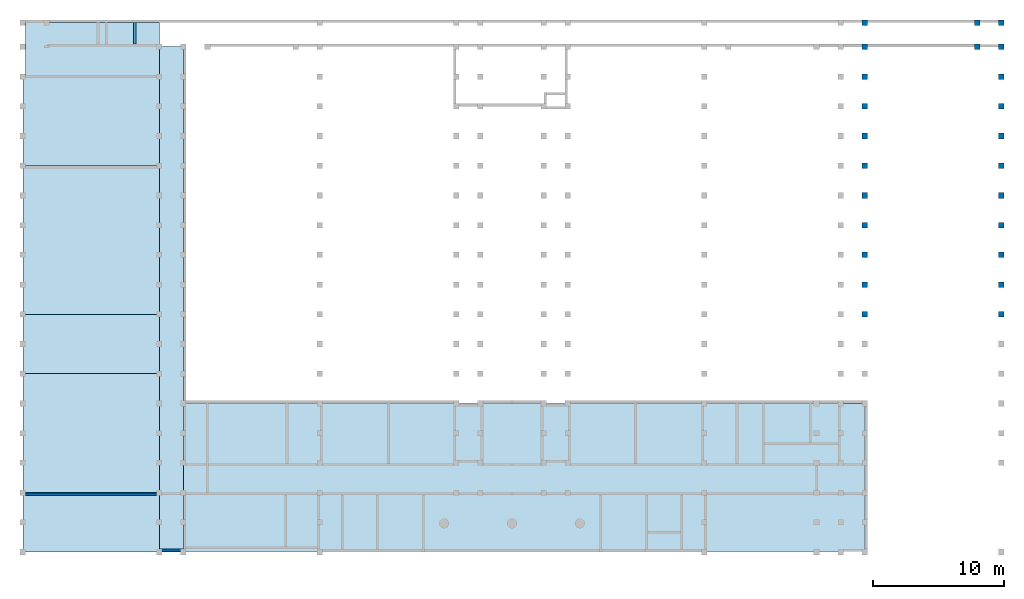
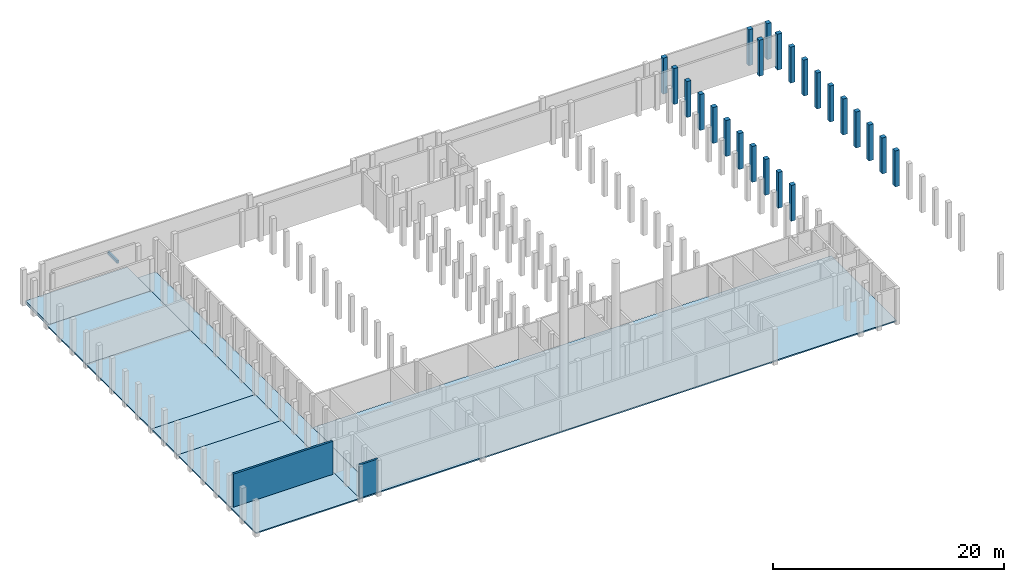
# One storey, part 7 of 9: 24 columns, 8 slabs, 2 walls, 1 beam.
"""IFC2X3 building model written with IfcOpenShell, lengths in millimetres."""

from ifc_helpers import new_model, entity, si_unit, converted_unit, derived_unit, direction, frame, frame_2d, origin, origin_2d_with_axis, place, context, subcontext, project, spatial, rectangle, extrude, source, transform, mapped, material, layer, layer_set, layer_usage, type_object, type_shapes, element, save


model = new_model("IFC2X3")

# Units and contexts
model_context = context("Model", 3, precision=0.01, world=origin(), true_north=direction((6.12303176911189e-17, 1.0)))
body_context = subcontext(model_context, "Body", "Model", "MODEL_VIEW")
ifc_project = project(units=[si_unit("LENGTHUNIT", "METRE", prefix="MILLI"), si_unit("AREAUNIT", "SQUARE_METRE"), si_unit("VOLUMEUNIT", "CUBIC_METRE"), converted_unit("PLANEANGLEUNIT", "DEGREE", entity("IfcRatioMeasure", 0.0174532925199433), si_unit("PLANEANGLEUNIT", "RADIAN"), dimensions=[0, 0, 0, 0, 0, 0, 0]), si_unit("MASSUNIT", "GRAM", prefix="KILO"), derived_unit("MASSDENSITYUNIT", [(si_unit("MASSUNIT", "GRAM", prefix="KILO"), 1), (si_unit("LENGTHUNIT", "METRE"), -3)]), derived_unit("MOMENTOFINERTIAUNIT", [(si_unit("LENGTHUNIT", "METRE"), 4)]), si_unit("TIMEUNIT", "SECOND"), si_unit("FREQUENCYUNIT", "HERTZ"), si_unit("THERMODYNAMICTEMPERATUREUNIT", "DEGREE_CELSIUS"), derived_unit("THERMALTRANSMITTANCEUNIT", [(si_unit("MASSUNIT", "GRAM", prefix="KILO"), 1), (si_unit("THERMODYNAMICTEMPERATUREUNIT", "KELVIN"), -1), (si_unit("TIMEUNIT", "SECOND"), -3)]), derived_unit("VOLUMETRICFLOWRATEUNIT", [(si_unit("LENGTHUNIT", "METRE"), 3), (si_unit("TIMEUNIT", "SECOND"), -1)]), si_unit("ELECTRICCURRENTUNIT", "AMPERE"), si_unit("ELECTRICVOLTAGEUNIT", "VOLT"), si_unit("POWERUNIT", "WATT"), si_unit("FORCEUNIT", "NEWTON", prefix="KILO"), si_unit("ILLUMINANCEUNIT", "LUX"), si_unit("LUMINOUSFLUXUNIT", "LUMEN"), si_unit("LUMINOUSINTENSITYUNIT", "CANDELA"), derived_unit("USERDEFINED", [(si_unit("MASSUNIT", "GRAM", prefix="KILO"), -1), (si_unit("LENGTHUNIT", "METRE"), -2), (si_unit("TIMEUNIT", "SECOND"), 3), (si_unit("LUMINOUSFLUXUNIT", "LUMEN"), 1)]), derived_unit("LINEARVELOCITYUNIT", [(si_unit("LENGTHUNIT", "METRE"), 1), (si_unit("TIMEUNIT", "SECOND"), -1)]), si_unit("PRESSUREUNIT", "PASCAL"), derived_unit("USERDEFINED", [(si_unit("LENGTHUNIT", "METRE"), -2), (si_unit("MASSUNIT", "GRAM", prefix="KILO"), 1), (si_unit("TIMEUNIT", "SECOND"), -2)]), derived_unit("LINEARFORCEUNIT", [(si_unit("MASSUNIT", "GRAM", prefix="KILO"), 1), (si_unit("LENGTHUNIT", "METRE"), 1), (si_unit("TIMEUNIT", "SECOND"), -2), (si_unit("LENGTHUNIT", "METRE"), -1)]), derived_unit("PLANARFORCEUNIT", [(si_unit("MASSUNIT", "GRAM", prefix="KILO"), 1), (si_unit("LENGTHUNIT", "METRE"), 1), (si_unit("TIMEUNIT", "SECOND"), -2), (si_unit("LENGTHUNIT", "METRE"), -2)])], contexts=[model_context])

# Site, building, storey
site_placement = place(None, frame((10627.5135316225, 21939.0796949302, 0.0)))
site = spatial("IfcSite", under=ifc_project, at=site_placement, Name="Default", CompositionType="ELEMENT")
building_placement = place(site_placement, origin())
building = spatial("IfcBuilding", under=site, at=building_placement, CompositionType="ELEMENT")
storey_placement = place(building_placement, frame((0.0, 0.0, -3500.0)))
storey = spatial("IfcBuildingStorey", under=building, at=storey_placement, Name="R-1", CompositionType="ELEMENT", Elevation=-3500.0)

# Columns
ifc_material_1 = material(Name="Concrete, Precast Smooth, Light Grey")
column_type_1 = type_object("IfcColumnType", Name="M_Precast-Square Column:430x430", PredefinedType="COLUMN", material=ifc_material_1)
shared_shape_1 = source(origin(), body_context, "Body", "SweptSolid", [
    extrude(rectangle(XDim=430.0, YDim=430.000000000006, at=frame_2d((-1.08002495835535e-12, -8.66862137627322e-12), x_axis=(1.0, 0.0))), frame((63782.4864683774, 18310.9203050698, -3800.0), z_axis=(0.0, 0.0, 1.0), x_axis=(0.0, -1.0, 0.0)), (0.0, 0.0, 1.0), 3800.0),
])
type_shapes(column_type_1, [shared_shape_1])
column_1_placement = place(storey_placement, frame((0.0, 0.0, 3500.0)))
element("IfcColumn", 1, at=column_1_placement, inside=storey, type_object=column_type_1, material=ifc_material_1, Name="M_Precast-Square Column:430x430", ObjectType="M_Precast-Square Column:430x430", context=body_context, shape_type="MappedRepresentation", body=[
    mapped(shared_shape_1, transform((0.0, 0.0, 0.0), scale=1.0)),
])
column_type_2 = type_object("IfcColumnType", Name="M_Precast-Square Column:430x430", PredefinedType="COLUMN", material=ifc_material_1)
shared_shape_2 = source(origin(), body_context, "Body", "SweptSolid", [
    extrude(rectangle(XDim=430.0, YDim=430.000000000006, at=frame_2d((-1.08002495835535e-12, 0.0), x_axis=(1.0, 0.0))), frame((61952.4864683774, 18310.9203050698, -3800.0), z_axis=(0.0, 0.0, 1.0), x_axis=(0.0, -1.0, 0.0)), (0.0, 0.0, 1.0), 3800.0),
])
type_shapes(column_type_2, [shared_shape_2])
column_2_placement = place(storey_placement, frame((0.0, 0.0, 3500.0)))
element("IfcColumn", 2, at=column_2_placement, inside=storey, type_object=column_type_2, material=ifc_material_1, Name="M_Precast-Square Column:430x430", ObjectType="M_Precast-Square Column:430x430", context=body_context, shape_type="MappedRepresentation", body=[
    mapped(shared_shape_2, transform((0.0, 0.0, 0.0), scale=1.0)),
])
column_type_3 = type_object("IfcColumnType", Name="M_Precast-Square Column:430x430", PredefinedType="COLUMN", material=ifc_material_1)
shared_shape_3 = source(origin(), body_context, "Body", "SweptSolid", [
    extrude(rectangle(XDim=430.0, YDim=430.000000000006, at=frame_2d((-1.08002495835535e-12, -8.66862137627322e-12), x_axis=(1.0, 0.0))), frame((61952.4864683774, 16480.9203050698, -3800.0), z_axis=(0.0, 0.0, 1.0), x_axis=(0.0, -1.0, 0.0)), (0.0, 0.0, 1.0), 3800.0),
])
type_shapes(column_type_3, [shared_shape_3])
column_3_placement = place(storey_placement, frame((0.0, 0.0, 3500.0)))
element("IfcColumn", 3, at=column_3_placement, inside=storey, type_object=column_type_3, material=ifc_material_1, Name="M_Precast-Square Column:430x430", ObjectType="M_Precast-Square Column:430x430", context=body_context, shape_type="MappedRepresentation", body=[
    mapped(shared_shape_3, transform((0.0, 0.0, 0.0), scale=1.0)),
])
column_type_4 = type_object("IfcColumnType", Name="M_Precast-Square Column:430x430", PredefinedType="COLUMN", material=ifc_material_1)
shared_shape_4 = source(origin(), body_context, "Body", "SweptSolid", [
    extrude(rectangle(XDim=430.0, YDim=430.000000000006, at=frame_2d((-1.08002495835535e-12, -8.66862137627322e-12), x_axis=(1.0, 0.0))), frame((63782.4864683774, 16480.9203050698, -3800.0), z_axis=(0.0, 0.0, 1.0), x_axis=(0.0, -1.0, 0.0)), (0.0, 0.0, 1.0), 3800.0),
])
type_shapes(column_type_4, [shared_shape_4])
column_4_placement = place(storey_placement, frame((0.0, 0.0, 3500.0)))
element("IfcColumn", 4, at=column_4_placement, inside=storey, type_object=column_type_4, material=ifc_material_1, Name="M_Precast-Square Column:430x430", ObjectType="M_Precast-Square Column:430x430", context=body_context, shape_type="MappedRepresentation", body=[
    mapped(shared_shape_4, transform((0.0, 0.0, 0.0), scale=1.0)),
])
column_type_5 = type_object("IfcColumnType", Name="M_Precast-Square Column:430x430", PredefinedType="COLUMN", material=ifc_material_1)
shared_shape_5 = source(origin(), body_context, "Body", "SweptSolid", [
    extrude(rectangle(XDim=430.0, YDim=430.000000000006, at=frame_2d((-1.08002495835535e-12, 0.0), x_axis=(1.0, 0.0))), frame((63782.4864683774, 14220.9203050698, -3800.0), z_axis=(0.0, 0.0, 1.0), x_axis=(0.0, -1.0, 0.0)), (0.0, 0.0, 1.0), 3800.0),
])
type_shapes(column_type_5, [shared_shape_5])
column_5_placement = place(storey_placement, frame((0.0, 0.0, 3500.0)))
element("IfcColumn", 5, at=column_5_placement, inside=storey, type_object=column_type_5, material=ifc_material_1, Name="M_Precast-Square Column:430x430", ObjectType="M_Precast-Square Column:430x430", context=body_context, shape_type="MappedRepresentation", body=[
    mapped(shared_shape_5, transform((0.0, 0.0, 0.0), scale=1.0)),
])
column_type_6 = type_object("IfcColumnType", Name="M_Precast-Square Column:430x430", PredefinedType="COLUMN", material=ifc_material_1)
shared_shape_6 = source(origin(), body_context, "Body", "SweptSolid", [
    extrude(rectangle(XDim=430.0, YDim=430.000000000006, at=frame_2d((-1.08002495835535e-12, -8.66862137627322e-12), x_axis=(1.0, 0.0))), frame((63782.4864683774, 11960.9203050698, -3800.0), z_axis=(0.0, 0.0, 1.0), x_axis=(0.0, -1.0, 0.0)), (0.0, 0.0, 1.0), 3800.0),
])
type_shapes(column_type_6, [shared_shape_6])
column_6_placement = place(storey_placement, frame((0.0, 0.0, 3500.0)))
element("IfcColumn", 6, at=column_6_placement, inside=storey, type_object=column_type_6, material=ifc_material_1, Name="M_Precast-Square Column:430x430", ObjectType="M_Precast-Square Column:430x430", context=body_context, shape_type="MappedRepresentation", body=[
    mapped(shared_shape_6, transform((0.0, 0.0, 0.0), scale=1.0)),
])
column_type_7 = type_object("IfcColumnType", Name="M_Precast-Square Column:430x430", PredefinedType="COLUMN", material=ifc_material_1)
shared_shape_7 = source(origin(), body_context, "Body", "SweptSolid", [
    extrude(rectangle(XDim=430.0, YDim=430.000000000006, at=frame_2d((1.08002495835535e-12, 0.0), x_axis=(1.0, 0.0))), frame((53402.4864683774, 16480.9203050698, -3800.0), z_axis=(0.0, 0.0, 1.0), x_axis=(0.0, -1.0, 0.0)), (0.0, 0.0, 1.0), 3800.0),
])
type_shapes(column_type_7, [shared_shape_7])
column_7_placement = place(storey_placement, frame((0.0, 0.0, 3500.0)))
element("IfcColumn", 7, at=column_7_placement, inside=storey, type_object=column_type_7, material=ifc_material_1, Name="M_Precast-Square Column:430x430", ObjectType="M_Precast-Square Column:430x430", context=body_context, shape_type="MappedRepresentation", body=[
    mapped(shared_shape_7, transform((0.0, 0.0, 0.0), scale=1.0)),
])
column_type_8 = type_object("IfcColumnType", Name="M_Precast-Square Column:430x430", PredefinedType="COLUMN", material=ifc_material_1)
shared_shape_8 = source(origin(), body_context, "Body", "SweptSolid", [
    extrude(rectangle(XDim=430.0, YDim=430.000000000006, at=frame_2d((-1.08002495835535e-12, -8.66862137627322e-12), x_axis=(1.0, 0.0))), frame((53402.4864683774, 14220.9203050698, -3800.0), z_axis=(0.0, 0.0, 1.0), x_axis=(0.0, -1.0, 0.0)), (0.0, 0.0, 1.0), 3800.0),
])
type_shapes(column_type_8, [shared_shape_8])
column_8_placement = place(storey_placement, frame((0.0, 0.0, 3500.0)))
element("IfcColumn", 8, at=column_8_placement, inside=storey, type_object=column_type_8, material=ifc_material_1, Name="M_Precast-Square Column:430x430", ObjectType="M_Precast-Square Column:430x430", context=body_context, shape_type="MappedRepresentation", body=[
    mapped(shared_shape_8, transform((0.0, 0.0, 0.0), scale=1.0)),
])
column_type_9 = type_object("IfcColumnType", Name="M_Precast-Square Column:430x430", PredefinedType="COLUMN", material=ifc_material_1)
shared_shape_9 = source(origin(), body_context, "Body", "SweptSolid", [
    extrude(rectangle(XDim=430.0, YDim=430.000000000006, at=frame_2d((1.08002495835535e-12, 0.0), x_axis=(1.0, 0.0))), frame((53402.4864683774, 18310.9203050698, -3800.0), z_axis=(0.0, 0.0, 1.0), x_axis=(0.0, -1.0, 0.0)), (0.0, 0.0, 1.0), 3800.0),
])
type_shapes(column_type_9, [shared_shape_9])
column_9_placement = place(storey_placement, frame((0.0, 0.0, 3500.0)))
element("IfcColumn", 9, at=column_9_placement, inside=storey, type_object=column_type_9, material=ifc_material_1, Name="M_Precast-Square Column:430x430", ObjectType="M_Precast-Square Column:430x430", context=body_context, shape_type="MappedRepresentation", body=[
    mapped(shared_shape_9, transform((0.0, 0.0, 0.0), scale=1.0)),
])
column_type_10 = type_object("IfcColumnType", Name="M_Precast-Square Column:430x430", PredefinedType="COLUMN", material=ifc_material_1)
shared_shape_10 = source(origin(), body_context, "Body", "SweptSolid", [
    extrude(rectangle(XDim=430.0, YDim=430.000000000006, at=frame_2d((-1.08002495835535e-12, -8.66862137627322e-12), x_axis=(1.0, 0.0))), frame((53402.4864683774, 11960.9203050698, -3800.0), z_axis=(0.0, 0.0, 1.0), x_axis=(0.0, -1.0, 0.0)), (0.0, 0.0, 1.0), 3800.0),
])
type_shapes(column_type_10, [shared_shape_10])
column_10_placement = place(storey_placement, frame((0.0, 0.0, 3500.0)))
element("IfcColumn", 10, at=column_10_placement, inside=storey, type_object=column_type_10, material=ifc_material_1, Name="M_Precast-Square Column:430x430", ObjectType="M_Precast-Square Column:430x430", context=body_context, shape_type="MappedRepresentation", body=[
    mapped(shared_shape_10, transform((0.0, 0.0, 0.0), scale=1.0)),
])
column_type_11 = type_object("IfcColumnType", Name="M_Precast-Square Column:430x430", PredefinedType="COLUMN", material=ifc_material_1)
shared_shape_11 = source(origin(), body_context, "Body", "SweptSolid", [
    extrude(rectangle(XDim=430.0, YDim=430.000000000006, at=frame_2d((0.0, -8.66862137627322e-12), x_axis=(1.0, 0.0))), frame((53402.4864683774, 9700.92030506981, -3800.0), z_axis=(0.0, 0.0, 1.0), x_axis=(0.0, -1.0, 0.0)), (0.0, 0.0, 1.0), 3800.0),
])
type_shapes(column_type_11, [shared_shape_11])
column_11_placement = place(storey_placement, frame((0.0, 0.0, 3500.0)))
element("IfcColumn", 11, at=column_11_placement, inside=storey, type_object=column_type_11, material=ifc_material_1, Name="M_Precast-Square Column:430x430", ObjectType="M_Precast-Square Column:430x430", context=body_context, shape_type="MappedRepresentation", body=[
    mapped(shared_shape_11, transform((0.0, 0.0, 0.0), scale=1.0)),
])
column_type_12 = type_object("IfcColumnType", Name="M_Precast-Square Column:430x430", PredefinedType="COLUMN", material=ifc_material_1)
shared_shape_12 = source(origin(), body_context, "Body", "SweptSolid", [
    extrude(rectangle(XDim=430.000000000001, YDim=430.000000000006, at=frame_2d((5.40012479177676e-13, -8.66862137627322e-12), x_axis=(1.0, 0.0))), frame((63782.4864683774, 9700.92030506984, -3800.0), z_axis=(0.0, 0.0, 1.0), x_axis=(0.0, -1.0, 0.0)), (0.0, 0.0, 1.0), 3800.0),
])
type_shapes(column_type_12, [shared_shape_12])
column_12_placement = place(storey_placement, frame((0.0, 0.0, 3500.0)))
element("IfcColumn", 12, at=column_12_placement, inside=storey, type_object=column_type_12, material=ifc_material_1, Name="M_Precast-Square Column:430x430", ObjectType="M_Precast-Square Column:430x430", context=body_context, shape_type="MappedRepresentation", body=[
    mapped(shared_shape_12, transform((0.0, 0.0, 0.0), scale=1.0)),
])
column_type_13 = type_object("IfcColumnType", Name="M_Precast-Square Column:430x430", PredefinedType="COLUMN", material=ifc_material_1)
shared_shape_13 = source(origin(), body_context, "Body", "SweptSolid", [
    extrude(rectangle(XDim=430.0, YDim=430.000000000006, at=origin_2d_with_axis()), frame((53402.4864683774, 7440.92030506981, -3800.0), z_axis=(0.0, 0.0, 1.0), x_axis=(0.0, -1.0, 0.0)), (0.0, 0.0, 1.0), 3800.0),
])
type_shapes(column_type_13, [shared_shape_13])
column_13_placement = place(storey_placement, frame((0.0, 0.0, 3500.0)))
element("IfcColumn", 13, at=column_13_placement, inside=storey, type_object=column_type_13, material=ifc_material_1, Name="M_Precast-Square Column:430x430", ObjectType="M_Precast-Square Column:430x430", context=body_context, shape_type="MappedRepresentation", body=[
    mapped(shared_shape_13, transform((0.0, 0.0, 0.0), scale=1.0)),
])
column_type_14 = type_object("IfcColumnType", Name="M_Precast-Square Column:430x430", PredefinedType="COLUMN", material=ifc_material_1)
shared_shape_14 = source(origin(), body_context, "Body", "SweptSolid", [
    extrude(rectangle(XDim=430.0, YDim=430.000000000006, at=origin_2d_with_axis()), frame((63782.4864683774, 7440.92030506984, -3800.0), z_axis=(0.0, 0.0, 1.0), x_axis=(0.0, -1.0, 0.0)), (0.0, 0.0, 1.0), 3800.0),
])
type_shapes(column_type_14, [shared_shape_14])
column_14_placement = place(storey_placement, frame((0.0, 0.0, 3500.0)))
element("IfcColumn", 14, at=column_14_placement, inside=storey, type_object=column_type_14, material=ifc_material_1, Name="M_Precast-Square Column:430x430", ObjectType="M_Precast-Square Column:430x430", context=body_context, shape_type="MappedRepresentation", body=[
    mapped(shared_shape_14, transform((0.0, 0.0, 0.0), scale=1.0)),
])
column_type_15 = type_object("IfcColumnType", Name="M_Precast-Square Column:430x430", PredefinedType="COLUMN", material=ifc_material_1)
shared_shape_15 = source(origin(), body_context, "Body", "SweptSolid", [
    extrude(rectangle(XDim=430.0, YDim=430.000000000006, at=origin_2d_with_axis()), frame((53402.4864683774, 5180.92030506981, -3800.0), z_axis=(0.0, 0.0, 1.0), x_axis=(0.0, -1.0, 0.0)), (0.0, 0.0, 1.0), 3800.0),
])
type_shapes(column_type_15, [shared_shape_15])
column_15_placement = place(storey_placement, frame((0.0, 0.0, 3500.0)))
element("IfcColumn", 15, at=column_15_placement, inside=storey, type_object=column_type_15, material=ifc_material_1, Name="M_Precast-Square Column:430x430", ObjectType="M_Precast-Square Column:430x430", context=body_context, shape_type="MappedRepresentation", body=[
    mapped(shared_shape_15, transform((0.0, 0.0, 0.0), scale=1.0)),
])
column_type_16 = type_object("IfcColumnType", Name="M_Precast-Square Column:430x430", PredefinedType="COLUMN", material=ifc_material_1)
shared_shape_16 = source(origin(), body_context, "Body", "SweptSolid", [
    extrude(rectangle(XDim=430.0, YDim=430.000000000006, at=origin_2d_with_axis()), frame((63782.4864683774, 5180.92030506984, -3800.0), z_axis=(0.0, 0.0, 1.0), x_axis=(0.0, -1.0, 0.0)), (0.0, 0.0, 1.0), 3800.0),
])
type_shapes(column_type_16, [shared_shape_16])
column_16_placement = place(storey_placement, frame((0.0, 0.0, 3500.0)))
element("IfcColumn", 16, at=column_16_placement, inside=storey, type_object=column_type_16, material=ifc_material_1, Name="M_Precast-Square Column:430x430", ObjectType="M_Precast-Square Column:430x430", context=body_context, shape_type="MappedRepresentation", body=[
    mapped(shared_shape_16, transform((0.0, 0.0, 0.0), scale=1.0)),
])
column_type_17 = type_object("IfcColumnType", Name="M_Precast-Square Column:430x430", PredefinedType="COLUMN", material=ifc_material_1)
shared_shape_17 = source(origin(), body_context, "Body", "SweptSolid", [
    extrude(rectangle(XDim=430.0, YDim=430.000000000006, at=origin_2d_with_axis()), frame((53402.4864683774, 2920.92030506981, -3800.0), z_axis=(0.0, 0.0, 1.0), x_axis=(0.0, -1.0, 0.0)), (0.0, 0.0, 1.0), 3800.0),
])
type_shapes(column_type_17, [shared_shape_17])
column_17_placement = place(storey_placement, frame((0.0, 0.0, 3500.0)))
element("IfcColumn", 17, at=column_17_placement, inside=storey, type_object=column_type_17, material=ifc_material_1, Name="M_Precast-Square Column:430x430", ObjectType="M_Precast-Square Column:430x430", context=body_context, shape_type="MappedRepresentation", body=[
    mapped(shared_shape_17, transform((0.0, 0.0, 0.0), scale=1.0)),
])
column_type_18 = type_object("IfcColumnType", Name="M_Precast-Square Column:430x430", PredefinedType="COLUMN", material=ifc_material_1)
shared_shape_18 = source(origin(), body_context, "Body", "SweptSolid", [
    extrude(rectangle(XDim=430.0, YDim=430.000000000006, at=origin_2d_with_axis()), frame((63782.4864683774, 2920.92030506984, -3800.0), z_axis=(0.0, 0.0, 1.0), x_axis=(0.0, -1.0, 0.0)), (0.0, 0.0, 1.0), 3800.0),
])
type_shapes(column_type_18, [shared_shape_18])
column_18_placement = place(storey_placement, frame((0.0, 0.0, 3500.0)))
element("IfcColumn", 18, at=column_18_placement, inside=storey, type_object=column_type_18, material=ifc_material_1, Name="M_Precast-Square Column:430x430", ObjectType="M_Precast-Square Column:430x430", context=body_context, shape_type="MappedRepresentation", body=[
    mapped(shared_shape_18, transform((0.0, 0.0, 0.0), scale=1.0)),
])
column_type_19 = type_object("IfcColumnType", Name="M_Precast-Square Column:430x430", PredefinedType="COLUMN", material=ifc_material_1)
shared_shape_19 = source(origin(), body_context, "Body", "SweptSolid", [
    extrude(rectangle(XDim=430.0, YDim=430.000000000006, at=frame_2d((7.105427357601e-14, 0.0), x_axis=(1.0, 0.0))), frame((53402.4864683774, 660.920305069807, -3800.0), z_axis=(0.0, 0.0, 1.0), x_axis=(0.0, -1.0, 0.0)), (0.0, 0.0, 1.0), 3800.0),
])
type_shapes(column_type_19, [shared_shape_19])
column_19_placement = place(storey_placement, frame((0.0, 0.0, 3500.0)))
element("IfcColumn", 19, at=column_19_placement, inside=storey, type_object=column_type_19, material=ifc_material_1, Name="M_Precast-Square Column:430x430", ObjectType="M_Precast-Square Column:430x430", context=body_context, shape_type="MappedRepresentation", body=[
    mapped(shared_shape_19, transform((0.0, 0.0, 0.0), scale=1.0)),
])
column_type_20 = type_object("IfcColumnType", Name="M_Precast-Square Column:430x430", PredefinedType="COLUMN", material=ifc_material_1)
shared_shape_20 = source(origin(), body_context, "Body", "SweptSolid", [
    extrude(rectangle(XDim=430.0, YDim=430.000000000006, at=frame_2d((7.105427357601e-14, 0.0), x_axis=(1.0, 0.0))), frame((63782.4864683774, 660.920305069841, -3800.0), z_axis=(0.0, 0.0, 1.0), x_axis=(0.0, -1.0, 0.0)), (0.0, 0.0, 1.0), 3800.0),
])
type_shapes(column_type_20, [shared_shape_20])
column_20_placement = place(storey_placement, frame((0.0, 0.0, 3500.0)))
element("IfcColumn", 20, at=column_20_placement, inside=storey, type_object=column_type_20, material=ifc_material_1, Name="M_Precast-Square Column:430x430", ObjectType="M_Precast-Square Column:430x430", context=body_context, shape_type="MappedRepresentation", body=[
    mapped(shared_shape_20, transform((0.0, 0.0, 0.0), scale=1.0)),
])
column_type_21 = type_object("IfcColumnType", Name="M_Precast-Square Column:430x430", PredefinedType="COLUMN", material=ifc_material_1)
shared_shape_21 = source(origin(), body_context, "Body", "SweptSolid", [
    extrude(rectangle(XDim=430.0, YDim=430.000000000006, at=origin_2d_with_axis()), frame((53402.4864683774, -1599.07969493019, -3800.0), z_axis=(0.0, 0.0, 1.0), x_axis=(0.0, -1.0, 0.0)), (0.0, 0.0, 1.0), 3800.0),
])
type_shapes(column_type_21, [shared_shape_21])
column_21_placement = place(storey_placement, frame((0.0, 0.0, 3500.0)))
element("IfcColumn", 21, at=column_21_placement, inside=storey, type_object=column_type_21, material=ifc_material_1, Name="M_Precast-Square Column:430x430", ObjectType="M_Precast-Square Column:430x430", context=body_context, shape_type="MappedRepresentation", body=[
    mapped(shared_shape_21, transform((0.0, 0.0, 0.0), scale=1.0)),
])
column_type_22 = type_object("IfcColumnType", Name="M_Precast-Square Column:430x430", PredefinedType="COLUMN", material=ifc_material_1)
shared_shape_22 = source(origin(), body_context, "Body", "SweptSolid", [
    extrude(rectangle(XDim=430.0, YDim=430.000000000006, at=origin_2d_with_axis()), frame((63782.4864683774, -1599.07969493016, -3800.0), z_axis=(0.0, 0.0, 1.0), x_axis=(0.0, -1.0, 0.0)), (0.0, 0.0, 1.0), 3800.0),
])
type_shapes(column_type_22, [shared_shape_22])
column_22_placement = place(storey_placement, frame((0.0, 0.0, 3500.0)))
element("IfcColumn", 22, at=column_22_placement, inside=storey, type_object=column_type_22, material=ifc_material_1, Name="M_Precast-Square Column:430x430", ObjectType="M_Precast-Square Column:430x430", context=body_context, shape_type="MappedRepresentation", body=[
    mapped(shared_shape_22, transform((0.0, 0.0, 0.0), scale=1.0)),
])
column_type_23 = type_object("IfcColumnType", Name="M_Precast-Square Column:430x430", PredefinedType="COLUMN", material=ifc_material_1)
shared_shape_23 = source(origin(), body_context, "Body", "SweptSolid", [
    extrude(rectangle(XDim=430.0, YDim=430.000000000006, at=origin_2d_with_axis()), frame((53402.4864683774, -3859.07969493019, -3800.0), z_axis=(0.0, 0.0, 1.0), x_axis=(0.0, -1.0, 0.0)), (0.0, 0.0, 1.0), 3800.0),
])
type_shapes(column_type_23, [shared_shape_23])
column_23_placement = place(storey_placement, frame((0.0, 0.0, 3500.0)))
element("IfcColumn", 23, at=column_23_placement, inside=storey, type_object=column_type_23, material=ifc_material_1, Name="M_Precast-Square Column:430x430", ObjectType="M_Precast-Square Column:430x430", context=body_context, shape_type="MappedRepresentation", body=[
    mapped(shared_shape_23, transform((0.0, 0.0, 0.0), scale=1.0)),
])
column_type_24 = type_object("IfcColumnType", Name="M_Precast-Square Column:430x430", PredefinedType="COLUMN", material=ifc_material_1)
shared_shape_24 = source(origin(), body_context, "Body", "SweptSolid", [
    extrude(rectangle(XDim=430.0, YDim=430.000000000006, at=frame_2d((-5.40012479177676e-13, 0.0), x_axis=(1.0, 0.0))), frame((63782.4864683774, -3859.07969493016, -3800.0), z_axis=(0.0, 0.0, 1.0), x_axis=(0.0, -1.0, 0.0)), (0.0, 0.0, 1.0), 3800.0),
])
type_shapes(column_type_24, [shared_shape_24])
column_24_placement = place(storey_placement, frame((0.0, 0.0, 3500.0)))
element("IfcColumn", 24, at=column_24_placement, inside=storey, type_object=column_type_24, material=ifc_material_1, Name="M_Precast-Square Column:430x430", ObjectType="M_Precast-Square Column:430x430", context=body_context, shape_type="MappedRepresentation", body=[
    mapped(shared_shape_24, transform((0.0, 0.0, 0.0), scale=1.0)),
])

# Beam
ifc_material_2 = material(Name="Concrete, Cast-in-Place gray")
beam_type = type_object("IfcBeamType", Name="M_Concrete-Rectangular Beam:200x300 mm", PredefinedType="NOTDEFINED")
beam_placement = place(storey_placement, frame((-2102.51353162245, 16695.9579496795, 2330.0), z_axis=(0.0, 0.0, 1.0), x_axis=(0.0, 1.0, 0.0)))
element("IfcBeam", 25, at=beam_placement, inside=storey, type_object=beam_type, material=ifc_material_2, Name="M_Concrete-Rectangular Beam:200x300 mm", ObjectType="M_Concrete-Rectangular Beam:200x300 mm", context=body_context, shape_type="SweptSolid", body=[
    extrude(rectangle(XDim=300.0, YDim=200.000000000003, at=frame_2d((0.0, 1.35003119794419e-13), x_axis=(1.0, 0.0))), frame((0.0, 0.0, -150.0), z_axis=(1.0, 0.0, 0.0), x_axis=(0.0, 0.0, -1.0)), (0.0, 0.0, 1.0), 1649.96235539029),
])

# Slabs
ifc_material_3 = material(Name="Polyurethane Foam")
ifc_layer_1 = layer(ifc_material_3, 30.0)
ifc_material_4 = material(Name="Concrete, Cast-in-Place - C15")
ifc_layer_2 = layer(ifc_material_4, 100.0)
ifc_layer_set_1 = layer_set([ifc_layer_1, ifc_layer_2], Name="Floor:PlancherChauffant130Grey")
ifc_layer_usage_1 = layer_usage(ifc_layer_set_1, "AXIS3", "POSITIVE", 0.0)
slab_type_1 = type_object("IfcSlabType", Name="Floor:PlancherChauffant130Grey", PredefinedType="FLOOR", material=ifc_layer_set_1)
slab_1_placement = place(storey_placement, origin())
element("IfcSlab", 26, at=slab_1_placement, inside=storey, type_object=slab_type_1, material=ifc_layer_usage_1, Name="Floor:PlancherChauffant130Grey", ObjectType="Floor:PlancherChauffant130Grey", PredefinedType="FLOOR", context=body_context, shape_type="SweptSolid", body=[
    extrude(rectangle(XDim=11272.5, YDim=51819.9999999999, at=frame_2d((2.27373675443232e-12, 0.0), x_axis=(1.0, 0.0))), frame((27492.4864683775, -16275.3296949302, 0.0), z_axis=(0.0, 0.0, -1.0), x_axis=(0.0, 1.0, 0.0)), (0.0, 0.0, 1.0), 130.0),
])
ifc_layer_usage_2 = layer_usage(ifc_layer_set_1, "AXIS3", "POSITIVE", 0.0)
slab_type_2 = type_object("IfcSlabType", Name="Floor:PlancherChauffant130Grey", PredefinedType="FLOOR", material=ifc_layer_set_1)
slab_2_placement = place(storey_placement, origin())
element("IfcSlab", 27, at=slab_2_placement, inside=storey, type_object=slab_type_2, material=ifc_layer_usage_2, Name="Floor:PlancherChauffant130Grey", ObjectType="Floor:PlancherChauffant130Grey", PredefinedType="FLOOR", context=body_context, shape_type="SweptSolid", body=[
    extrude(rectangle(XDim=38435.0, YDim=1829.99999999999, at=frame_2d((-9.09494701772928e-12, 0.0), x_axis=(1.0, 0.0))), frame((667.48646837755, -2721.57969493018, 0.0), z_axis=(0.0, 0.0, -1.0), x_axis=(0.0, 1.0, 0.0)), (0.0, 0.0, 1.0), 130.0),
])
ifc_layer_usage_3 = layer_usage(ifc_layer_set_1, "AXIS3", "POSITIVE", 0.0)
slab_type_3 = type_object("IfcSlabType", Name="Floor:PlancherChauffant130Grey", PredefinedType="FLOOR", material=ifc_layer_set_1)
slab_3_placement = place(storey_placement, origin())
element("IfcSlab", 28, at=slab_3_placement, inside=storey, type_object=slab_type_3, material=ifc_layer_usage_3, Name="Floor:PlancherChauffant130Grey", ObjectType="Floor:PlancherChauffant130Grey", PredefinedType="FLOOR", context=body_context, shape_type="SweptSolid", body=[
    extrude(rectangle(XDim=4519.99999999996, YDim=10380.0, at=frame_2d((-2.27373675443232e-12, 0.0), x_axis=(1.0, 0.0))), frame((-5437.51353162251, -19679.0796949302, 0.0), z_axis=(0.0, 0.0, -1.0), x_axis=(0.0, 1.0, 0.0)), (0.0, 0.0, 1.0), 130.0),
])
ifc_layer_usage_4 = layer_usage(ifc_layer_set_1, "AXIS3", "POSITIVE", 0.0)
slab_type_4 = type_object("IfcSlabType", Name="Floor:PlancherChauffant130Grey", PredefinedType="FLOOR", material=ifc_layer_set_1)
slab_4_placement = place(storey_placement, origin())
element("IfcSlab", 29, at=slab_4_placement, inside=storey, type_object=slab_type_4, material=ifc_layer_usage_4, Name="Floor:PlancherChauffant130Grey", ObjectType="Floor:PlancherChauffant130Grey", PredefinedType="FLOOR", context=body_context, shape_type="SweptSolid", body=[
    extrude(rectangle(XDim=6780.00000000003, YDim=10380.0, at=frame_2d((1.13686837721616e-12, 0.0), x_axis=(1.0, 0.0))), frame((-5437.51353162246, 10830.9203050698, 0.0), z_axis=(0.0, 0.0, -1.0), x_axis=(0.0, 1.0, 0.0)), (0.0, 0.0, 1.0), 130.0),
])
ifc_layer_usage_5 = layer_usage(ifc_layer_set_1, "AXIS3", "POSITIVE", 0.0)
slab_type_5 = type_object("IfcSlabType", Name="Floor:PlancherChauffant130Grey", PredefinedType="FLOOR", material=ifc_layer_set_1)
slab_5_placement = place(storey_placement, origin())
element("IfcSlab", 30, at=slab_5_placement, inside=storey, type_object=slab_type_5, material=ifc_layer_usage_5, Name="Floor:PlancherChauffant130Grey", ObjectType="Floor:PlancherChauffant130Grey", PredefinedType="FLOOR", context=body_context, shape_type="SweptSolid", body=[
    extrude(rectangle(XDim=4520.00000000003, YDim=10380.0, at=frame_2d((-4.54747350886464e-13, 0.0), x_axis=(1.0, 0.0))), frame((-5437.51353162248, -6119.07969493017, 0.0), z_axis=(0.0, 0.0, -1.0), x_axis=(0.0, 1.0, 0.0)), (0.0, 0.0, 1.0), 130.0),
])
ifc_layer_usage_6 = layer_usage(ifc_layer_set_1, "AXIS3", "POSITIVE", 0.0)
slab_type_6 = type_object("IfcSlabType", Name="Floor:PlancherChauffant130Grey", PredefinedType="FLOOR", material=ifc_layer_set_1)
slab_6_placement = place(storey_placement, origin())
element("IfcSlab", 31, at=slab_6_placement, inside=storey, type_object=slab_type_6, material=ifc_layer_usage_6, Name="Floor:PlancherChauffant130Grey", ObjectType="Floor:PlancherChauffant130Grey", PredefinedType="FLOOR", context=body_context, shape_type="SweptSolid", body=[
    extrude(rectangle(XDim=9040.00000000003, YDim=10380.0, at=origin_2d_with_axis()), frame((-5437.51353162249, -12899.0796949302, 0.0), z_axis=(0.0, 0.0, -1.0), x_axis=(0.0, 1.0, 0.0)), (0.0, 0.0, 1.0), 130.0),
])
ifc_layer_usage_7 = layer_usage(ifc_layer_set_1, "AXIS3", "POSITIVE", 0.0)
slab_type_7 = type_object("IfcSlabType", Name="Floor:PlancherChauffant130Grey", PredefinedType="FLOOR", material=ifc_layer_set_1)
slab_7_placement = place(storey_placement, origin())
element("IfcSlab", 32, at=slab_7_placement, inside=storey, type_object=slab_type_7, material=ifc_layer_usage_7, Name="Floor:PlancherChauffant130Grey", ObjectType="Floor:PlancherChauffant130Grey", PredefinedType="FLOOR", context=body_context, shape_type="SweptSolid", body=[
    extrude(rectangle(XDim=11300.0, YDim=10380.0, at=origin_2d_with_axis()), frame((-5437.51353162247, 1790.92030506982, 0.0), z_axis=(0.0, 0.0, -1.0), x_axis=(0.0, 1.0, 0.0)), (0.0, 0.0, 1.0), 130.0),
])
ifc_layer_3 = layer(ifc_material_4, 300.0)
ifc_layer_set_2 = layer_set([ifc_layer_3], Name="Floor:Plancher S/SOL Fille 0-1")
ifc_layer_usage_8 = layer_usage(ifc_layer_set_2, "AXIS3", "POSITIVE", 0.0)
slab_type_8 = type_object("IfcSlabType", Name="Floor:Plancher S/SOL Fille 0-1", PredefinedType="FLOOR", material=ifc_layer_set_2)
slab_8_placement = place(storey_placement, origin())
element("IfcSlab", 33, at=slab_8_placement, inside=storey, type_object=slab_type_8, material=ifc_layer_usage_8, Name="Floor:Plancher S/SOL Fille 0-1", ObjectType="Floor:Plancher S/SOL Fille 0-1", PredefinedType="FLOOR", context=body_context, shape_type="SweptSolid", body=[
    extrude(rectangle(XDim=4125.00000000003, YDim=10165.0, at=frame_2d((1.13686837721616e-12, 0.0), x_axis=(1.0, 0.0))), frame((-5330.01353162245, 16283.4203050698, 0.0), z_axis=(0.0, 0.0, -1.0), x_axis=(0.0, 1.0, 0.0)), (0.0, 0.0, 1.0), 300.0),
])

# Walls
ifc_material_5 = material(Name="Plaster")
ifc_layer_4 = layer(ifc_material_5, 12.5)
ifc_material_6 = material(Name="Concrete Masonry Units")
ifc_layer_5 = layer(ifc_material_6, 175.0)
ifc_layer_6 = layer(ifc_material_5, 12.5)
ifc_layer_set_3 = layer_set([ifc_layer_4, ifc_layer_5, ifc_layer_6], Name="Basic Wall:Wall-Int_200")
ifc_layer_usage_9 = layer_usage(ifc_layer_set_3, "AXIS2", "POSITIVE", -100.0)
wall_type = type_object("IfcWallType", Name="Basic Wall:Wall-Int_200", PredefinedType="STANDARD", material=ifc_layer_set_3)
wall_1_placement = place(storey_placement, frame((1582.48646837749, -21811.5796949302, 0.0), z_axis=(0.0, 0.0, 1.0), x_axis=(-1.0, 0.0, 0.0)))
element("IfcWallStandardCase", 34, at=wall_1_placement, inside=storey, type_object=wall_type, material=ifc_layer_usage_9, Name="Basic Wall:Wall-Int_200", ObjectType="Basic Wall:Wall-Int_200", context=body_context, shape_type="SweptSolid", body=[
    extrude(rectangle(XDim=1830.0, YDim=199.999999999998, at=frame_2d((915.0, 0.0), x_axis=(-1.0, 0.0))), origin(), (0.0, 0.0, 1.0), 3500.0),
])
ifc_layer_usage_10 = layer_usage(ifc_layer_set_3, "AXIS2", "NEGATIVE", 100.0)
wall_2_placement = place(storey_placement, frame((-247.513531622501, -17546.5796949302, 0.0), z_axis=(0.0, 0.0, 1.0), x_axis=(-1.0, 0.0, 0.0)))
element("IfcWallStandardCase", 35, at=wall_2_placement, inside=storey, type_object=wall_type, material=ifc_layer_usage_10, Name="Basic Wall:Wall-Int_200", ObjectType="Basic Wall:Wall-Int_200", context=body_context, shape_type="SweptSolid", body=[
    extrude(rectangle(XDim=9950.00000000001, YDim=200.0, at=frame_2d((5190.0, -3.90798504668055e-13), x_axis=(-1.0, 0.0))), origin(), (0.0, 0.0, 1.0), 3500.0),
])

save(model, "model.ifc")
